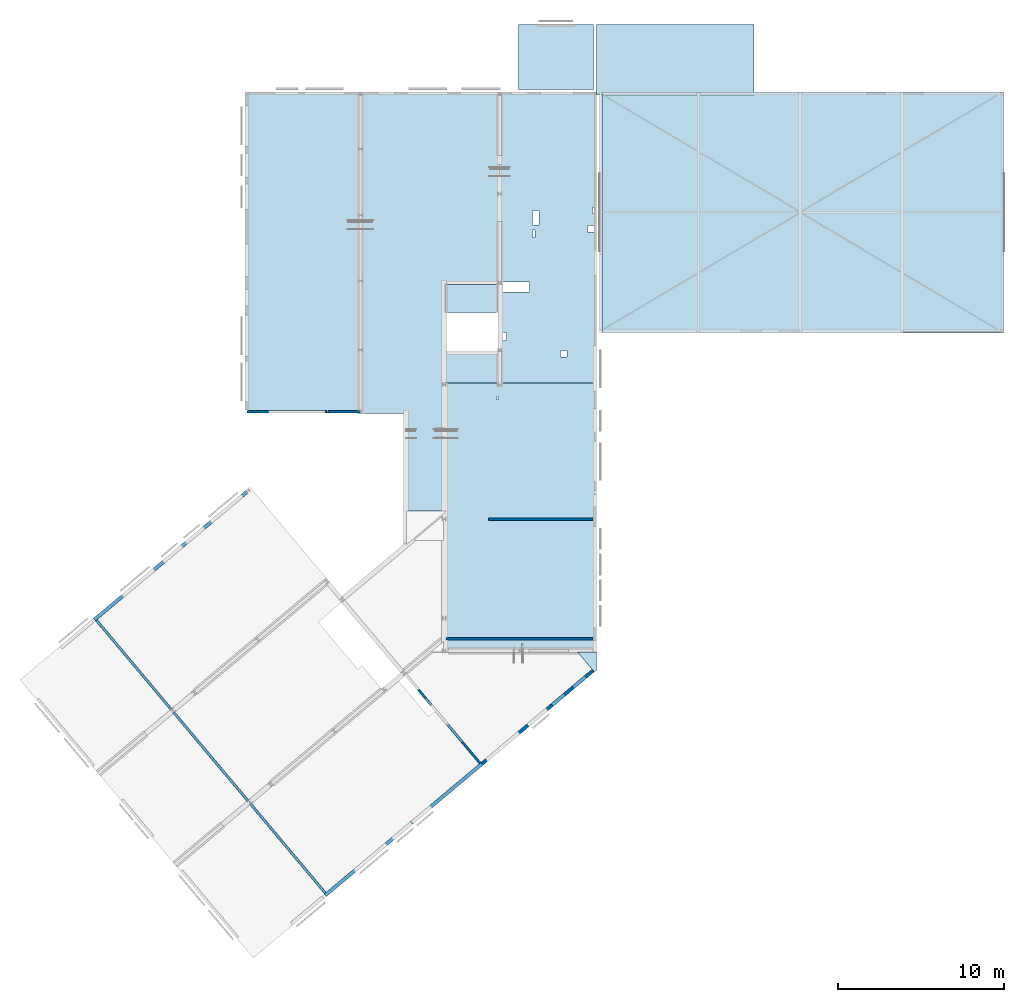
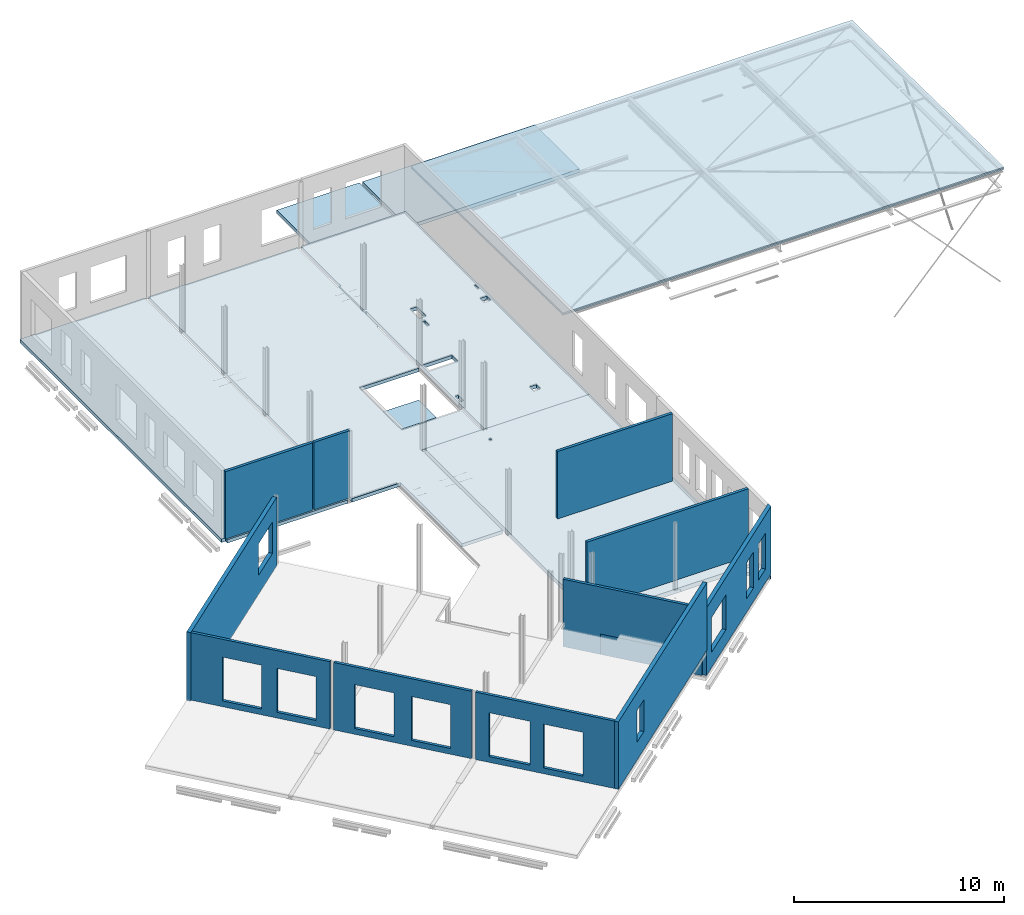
# One storey, part 12 of 16: 12 walls, 10 slabs, 19 openings.
"""IFC2X3 building model written with IfcOpenShell, lengths in millimetres."""

import ifcopenshell
import ifcopenshell.guid

model = None  # the IFC model being written
_history = None  # IfcOwnerHistory: only IFC2X3 demands one
_inside = {}  # id of a spatial element -> (the spatial element, [elements in it])
_under = {}  # id of a project, library or spatial element -> (it, [spatial elements below it])
_declared = {}  # id of a project -> (the project, [libraries it declares])
_typed = {}  # id of a type object -> (the type object, [elements of that type])
_made_of = {}  # id of a material, layer set ... -> (it, [elements and type objects made of it])


def new_model(schema):
    """Start an empty IFC model of exactly this schema.

    Asked for "IFC4X3", IfcOpenShell would pick the latest addendum, in which some entities
    have other attributes; the version numbers below select the first issue.
    IFC2X3 requires an IfcOwnerHistory on every rooted entity: one is made here for all.
    """
    global model, _history
    if schema == "IFC4X3":
        model = ifcopenshell.file(schema_version=(4, 3, 0, 0))
    else:
        model = ifcopenshell.file(schema=schema)
    _inside.clear()
    _under.clear()
    _declared.clear()
    _typed.clear()
    _made_of.clear()
    _history = None
    if model.schema == "IFC2X3":
        org = make("IfcOrganization", Name="unknown")
        user = make(
            "IfcPersonAndOrganization",
            ThePerson=make("IfcPerson", FamilyName="unknown"),
            TheOrganization=org,
        )
        app = make(
            "IfcApplication",
            ApplicationDeveloper=org,
            Version="unknown",
            ApplicationFullName="unknown",
            ApplicationIdentifier="unknown",
        )
        _history = make(
            "IfcOwnerHistory",
            OwningUser=user,
            OwningApplication=app,
            ChangeAction="ADDED",
            CreationDate=0,
        )
    return model


def make(cls, **values):
    """One entity of the class cls with the attributes given. An attribute that is None is left unset."""
    return model.create_entity(
        cls, **{name: value for name, value in values.items() if value is not None}
    )


def entity(cls, *values):
    """Any entity or typed value of the class cls, its attributes in the order of the schema. None: left unset."""
    e = model.create_entity(cls)
    for i, value in enumerate(values):
        if value is not None:
            e[i] = value
    return e


def rooted(cls, **values):
    """An entity with a GlobalId (a new one), such as an element, a storey or a relation."""
    return make(cls, GlobalId=ifcopenshell.guid.new(), OwnerHistory=_history, **values)


def si_unit(unit_type, name, prefix=None):
    """IfcSIUnit, for example si_unit("LENGTHUNIT", "METRE", prefix="MILLI")."""
    return make("IfcSIUnit", UnitType=unit_type, Prefix=prefix, Name=name)


def converted_unit(unit_type, name, factor, base, dimensions=None, offset=None):
    """IfcConversionBasedUnit, such as the inch: factor (a typed value) times the base unit."""
    return make(
        "IfcConversionBasedUnit"
        if offset is None
        else "IfcConversionBasedUnitWithOffset",
        ConversionOffset=offset,
        Dimensions=None
        if dimensions is None
        else entity("IfcDimensionalExponents", *dimensions),
        UnitType=unit_type,
        Name=name,
        ConversionFactor=make(
            "IfcMeasureWithUnit", ValueComponent=factor, UnitComponent=base
        ),
    )


def derived_unit(unit_type, elements):
    """IfcDerivedUnit: a product of units, each with its exponent."""
    return make(
        "IfcDerivedUnit",
        Elements=[
            make("IfcDerivedUnitElement", Unit=unit, Exponent=power)
            for unit, power in elements
        ],
        UnitType=unit_type,
    )


def assignment(units):
    """IfcUnitAssignment: the units of a project."""
    return None if units is None else make("IfcUnitAssignment", Units=units)


def point(xyz):
    """IfcCartesianPoint."""
    return None if xyz is None else make("IfcCartesianPoint", Coordinates=xyz)


def direction(xyz):
    """IfcDirection."""
    return None if xyz is None else make("IfcDirection", DirectionRatios=xyz)


def frame(location, z_axis=None, x_axis=None):
    """IfcAxis2Placement3D, a coordinate frame: its origin and axes. An axis left out is left unset."""
    return make(
        "IfcAxis2Placement3D",
        Location=point(location),
        Axis=direction(z_axis),
        RefDirection=direction(x_axis),
    )


def frame_2d(location, x_axis=None):
    """IfcAxis2Placement2D, a coordinate frame in the plane: its origin and x axis."""
    return make(
        "IfcAxis2Placement2D", Location=point(location), RefDirection=direction(x_axis)
    )


def origin():
    """The frame at (0, 0, 0) with its axes left unset."""
    return frame((0.0, 0.0, 0.0))


def origin_2d_with_axis():
    """The frame at (0, 0) in the plane with the x axis (1, 0) written out."""
    return frame_2d((0.0, 0.0), x_axis=(1.0, 0.0))


def place(relative_to, where):
    """IfcLocalPlacement: puts the frame where relative to a parent placement (None: the world)."""
    return make(
        "IfcLocalPlacement", PlacementRelTo=relative_to, RelativePlacement=where
    )


def context(
    kind, dimensions, precision=None, world=None, true_north=None, identifier=None
):
    """IfcGeometricRepresentationContext, for example the 3D "Model" context."""
    return make(
        "IfcGeometricRepresentationContext",
        ContextIdentifier=identifier,
        ContextType=kind,
        CoordinateSpaceDimension=dimensions,
        Precision=precision,
        WorldCoordinateSystem=world,
        TrueNorth=true_north,
    )


def subcontext(parent, identifier, kind, view, scale=None):
    """IfcGeometricRepresentationSubContext, for example "Body" below "Model"."""
    return make(
        "IfcGeometricRepresentationSubContext",
        ContextIdentifier=identifier,
        ContextType=kind,
        ParentContext=parent,
        TargetScale=scale,
        TargetView=view,
    )


def project(units=None, contexts=None):
    """IfcProject with its units and contexts."""
    return rooted(
        "IfcProject",
        Name="project",
        RepresentationContexts=contexts,
        UnitsInContext=assignment(units),
    )


def spatial(cls, under=None, at=None, **own):
    """A site, building, storey or space (cls), placed at a placement, below another one or the project."""
    s = rooted(cls, ObjectPlacement=at, **own)
    if under is not None:
        _under.setdefault(under.id(), (under, []))[1].append(s)
    return s


def polyline(points):
    """IfcPolyline through the points."""
    return make("IfcPolyline", Points=[point(p) for p in points])


def profile(cls, at=None, kind="AREA", **sizes):
    """A parametric profile (cls). Its sizes go by their IFC names, for example OverallWidth=200.0."""
    return make(cls, ProfileType=kind, Position=at, **sizes)


def rectangle(**sizes):
    """IfcRectangleProfileDef."""
    return profile("IfcRectangleProfileDef", **sizes)


def outline(outer, holes=None, kind="AREA"):
    """IfcArbitraryClosedProfileDef: a profile drawn as a closed curve; with holes, ...WithVoids."""
    if holes is None:
        return make("IfcArbitraryClosedProfileDef", ProfileType=kind, OuterCurve=outer)
    return make(
        "IfcArbitraryProfileDefWithVoids",
        ProfileType=kind,
        OuterCurve=outer,
        InnerCurves=holes,
    )


def extrude(swept, where, along, depth):
    """IfcExtrudedAreaSolid: the profile swept, set in the frame where, extruded along a direction by depth."""
    return make(
        "IfcExtrudedAreaSolid",
        SweptArea=swept,
        Position=where,
        ExtrudedDirection=direction(along),
        Depth=depth,
    )


def clip(a, b, op="DIFFERENCE"):
    """IfcBooleanClippingResult: the solid a cut by the half space b."""
    return make(
        "IfcBooleanClippingResult", Operator=op, FirstOperand=a, SecondOperand=b
    )


def halfspace(plane, agree):
    """IfcHalfSpaceSolid: all space on one side of the plane z = 0 of the frame plane."""
    return make(
        "IfcHalfSpaceSolid",
        BaseSurface=make("IfcPlane", Position=plane),
        AgreementFlag=agree,
    )


def shape(context_of_items, identifier, shape_type, items):
    """IfcShapeRepresentation: the items that make up one representation, for example the "Body"."""
    return make(
        "IfcShapeRepresentation",
        ContextOfItems=context_of_items,
        RepresentationIdentifier=identifier,
        RepresentationType=shape_type,
        Items=items,
    )


def material(Name=None, Category=None):
    """IfcMaterial."""
    return make("IfcMaterial", Name=Name, Category=Category)


def layer(
    of_material, thickness, ventilated=None, Name=None, Category=None, Priority=None
):
    """IfcMaterialLayer: one layer of a wall or slab, of a material (None: an air gap)."""
    return make(
        "IfcMaterialLayer",
        Material=of_material,
        LayerThickness=thickness,
        IsVentilated=ventilated,
        Name=Name,
        Category=Category,
        Priority=Priority,
    )


def layer_set(layers, Name=None):
    """IfcMaterialLayerSet."""
    return make("IfcMaterialLayerSet", MaterialLayers=layers, LayerSetName=Name)


def layer_usage(for_layer_set, set_direction, sense, offset, extent=None):
    """IfcMaterialLayerSetUsage: how a layer set lies in its element."""
    return make(
        "IfcMaterialLayerSetUsage",
        ForLayerSet=for_layer_set,
        LayerSetDirection=set_direction,
        DirectionSense=sense,
        OffsetFromReferenceLine=offset,
        ReferenceExtent=extent,
    )


def made_of(thing, what):
    """Note that an element or type object is made of a material, layer set ...; save() writes the relation."""
    if what is not None:
        _made_of.setdefault(what.id(), (what, []))[1].append(thing)
    return thing


def type_object(cls, material=None, **own):
    """A type object (cls), such as IfcWallType, which elements share."""
    return made_of(rooted(cls, **own), material)


def element(
    cls,
    number,
    at=None,
    inside=None,
    cuts=None,
    type_object=None,
    material=None,
    context=None,
    identifier="Body",
    shape_type=None,
    held_by="IfcProductDefinitionShape",
    body=None,
    shapes=None,
    **own,
):
    """One element of the class cls, such as IfcWall. Its Tag is "e" and its number.

    at: its placement. inside: the storey or other place that contains it. cuts: it is an
    opening in that element (IfcRelVoidsElement). A single representation is given by context,
    identifier, shape_type and body (its items); several are given by shapes. held_by: the class
    of the entity that holds the representations. save() writes the other relations.
    """
    e = rooted(cls, Tag="e%d" % number, ObjectPlacement=at, **own)
    if body is not None:
        shapes = [shape(context, identifier, shape_type, body)]
    if shapes is not None:
        e.Representation = make(held_by, Representations=shapes)
    if inside is not None:
        _inside.setdefault(inside.id(), (inside, []))[1].append(e)
    if cuts is not None:
        rooted(
            "IfcRelVoidsElement", RelatingBuildingElement=cuts, RelatedOpeningElement=e
        )
    if type_object is not None:
        _typed.setdefault(type_object.id(), (type_object, []))[1].append(e)
    return made_of(e, material)


def aggregate(whole, parts):
    """IfcRelAggregates: a whole, such as a stair, and the parts it consists of."""
    return rooted("IfcRelAggregates", RelatingObject=whole, RelatedObjects=parts)


def save(model, path):
    """Write the relations noted so far, then the file.

    IfcRelAggregates (storeys below a building ...), IfcRelContainedInSpatialStructure (elements
    in a storey), IfcRelDefinesByType, IfcRelAssociatesMaterial and IfcRelDeclares: one each for
    every whole, place, type object, material and project.
    """
    for whole, parts in _under.values():
        aggregate(whole, parts)
    for where, things in _inside.values():
        rooted(
            "IfcRelContainedInSpatialStructure",
            RelatedElements=things,
            RelatingStructure=where,
        )
    for kind, things in _typed.values():
        rooted("IfcRelDefinesByType", RelatedObjects=things, RelatingType=kind)
    for what, things in _made_of.values():
        rooted("IfcRelAssociatesMaterial", RelatedObjects=things, RelatingMaterial=what)
    for by, libraries in _declared.values():
        rooted("IfcRelDeclares", RelatingContext=by, RelatedDefinitions=libraries)
    model.write(path)


model = new_model("IFC2X3")

# Units and contexts
model_context = context("Model", 3, precision=0.01, world=origin(), true_north=direction((6.12303176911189e-17, 1.0)))
body_context = subcontext(model_context, "Body", "Model", "MODEL_VIEW")
ifc_project = project(units=[si_unit("LENGTHUNIT", "METRE", prefix="MILLI"), si_unit("AREAUNIT", "SQUARE_METRE"), si_unit("VOLUMEUNIT", "CUBIC_METRE"), converted_unit("PLANEANGLEUNIT", "DEGREE", entity("IfcRatioMeasure", 0.0174532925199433), si_unit("PLANEANGLEUNIT", "RADIAN"), dimensions=[0, 0, 0, 0, 0, 0, 0]), si_unit("MASSUNIT", "GRAM", prefix="KILO"), derived_unit("MASSDENSITYUNIT", [(si_unit("MASSUNIT", "GRAM", prefix="KILO"), 1), (si_unit("LENGTHUNIT", "METRE"), -3)]), derived_unit("MOMENTOFINERTIAUNIT", [(si_unit("LENGTHUNIT", "METRE"), 4)]), si_unit("TIMEUNIT", "SECOND"), si_unit("FREQUENCYUNIT", "HERTZ"), si_unit("THERMODYNAMICTEMPERATUREUNIT", "DEGREE_CELSIUS"), derived_unit("THERMALTRANSMITTANCEUNIT", [(si_unit("MASSUNIT", "GRAM", prefix="KILO"), 1), (si_unit("THERMODYNAMICTEMPERATUREUNIT", "KELVIN"), -1), (si_unit("TIMEUNIT", "SECOND"), -3)]), derived_unit("VOLUMETRICFLOWRATEUNIT", [(si_unit("LENGTHUNIT", "METRE"), 3), (si_unit("TIMEUNIT", "SECOND"), -1)]), si_unit("ELECTRICCURRENTUNIT", "AMPERE"), si_unit("ELECTRICVOLTAGEUNIT", "VOLT"), si_unit("POWERUNIT", "WATT"), si_unit("FORCEUNIT", "NEWTON", prefix="KILO"), si_unit("ILLUMINANCEUNIT", "LUX"), si_unit("LUMINOUSFLUXUNIT", "LUMEN"), si_unit("LUMINOUSINTENSITYUNIT", "CANDELA"), derived_unit("USERDEFINED", [(si_unit("MASSUNIT", "GRAM", prefix="KILO"), -1), (si_unit("LENGTHUNIT", "METRE"), -2), (si_unit("TIMEUNIT", "SECOND"), 3), (si_unit("LUMINOUSFLUXUNIT", "LUMEN"), 1)]), derived_unit("LINEARVELOCITYUNIT", [(si_unit("LENGTHUNIT", "METRE"), 1), (si_unit("TIMEUNIT", "SECOND"), -1)]), si_unit("PRESSUREUNIT", "PASCAL"), derived_unit("USERDEFINED", [(si_unit("LENGTHUNIT", "METRE"), -2), (si_unit("MASSUNIT", "GRAM", prefix="KILO"), 1), (si_unit("TIMEUNIT", "SECOND"), -2)]), derived_unit("LINEARFORCEUNIT", [(si_unit("MASSUNIT", "GRAM", prefix="KILO"), 1), (si_unit("LENGTHUNIT", "METRE"), 1), (si_unit("TIMEUNIT", "SECOND"), -2), (si_unit("LENGTHUNIT", "METRE"), -1)]), derived_unit("PLANARFORCEUNIT", [(si_unit("MASSUNIT", "GRAM", prefix="KILO"), 1), (si_unit("LENGTHUNIT", "METRE"), 1), (si_unit("TIMEUNIT", "SECOND"), -2), (si_unit("LENGTHUNIT", "METRE"), -2)])], contexts=[model_context])

# Site, building, storey
site_placement = place(None, origin())
site = spatial("IfcSite", under=ifc_project, at=site_placement, Name="Default", CompositionType="ELEMENT")
building_placement = place(site_placement, origin())
building = spatial("IfcBuilding", under=site, at=building_placement, CompositionType="ELEMENT")
storey_placement = place(building_placement, frame((0.0, 0.0, 3500.0)))
storey = spatial("IfcBuildingStorey", under=building, at=storey_placement, Name="01 eerste verdieping", CompositionType="ELEMENT", Elevation=3500.00000000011)

# Slabs
ifc_material_1 = material(Name="f2_beton prefab")
ifc_layer_1 = layer(ifc_material_1, 200.0)
ifc_layer_set_1 = layer_set([ifc_layer_1], Name="Floor:BERSnl_23_FL_kanaalplaatvloer 200_gen_ISR")
ifc_layer_usage_1 = layer_usage(ifc_layer_set_1, "AXIS3", "POSITIVE", 0.0)
slab_type_1 = type_object("IfcSlabType", Name="Floor:BERSnl_23_FL_kanaalplaatvloer 200_gen_ISR", PredefinedType="FLOOR", material=ifc_layer_set_1)
slab_1_placement = place(storey_placement, origin())
element("IfcSlab", 1, at=slab_1_placement, inside=storey, type_object=slab_type_1, material=ifc_layer_usage_1, Name="Floor:BERSnl_23_FL_kanaalplaatvloer 200_gen_ISR", ObjectType="Floor:BERSnl_23_FL_kanaalplaatvloer 200_gen_ISR", PredefinedType="FLOOR", context=body_context, shape_type="SweptSolid", body=[
    extrude(outline(polyline([(-6342.76816433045, -2364.66666666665), (12865.8840821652, -2364.66666666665), (12865.8840821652, 4509.33333333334), (-6523.11591783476, 4509.33333333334), (-6523.11591783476, -2144.66666666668), (-6342.76816433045, -2144.66666666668), (-6342.76816433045, -2364.66666666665)])), frame((15960.1016431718, 22630.4125460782, 350.0), z_axis=(0.0, 0.0, -1.0), x_axis=(0.0, 1.0, 0.0)), (0.0, 0.0, 1.0), 200.0),
])
ifc_layer_usage_2 = layer_usage(ifc_layer_set_1, "AXIS3", "POSITIVE", 0.0)
slab_type_2 = type_object("IfcSlabType", Name="Floor:BERSnl_23_FL_kanaalplaatvloer 200_gen_ISR", PredefinedType="FLOOR", material=ifc_layer_set_1)
slab_2_placement = place(storey_placement, origin())
element("IfcSlab", 2, at=slab_2_placement, inside=storey, type_object=slab_type_2, material=ifc_layer_usage_2, Name="Floor:BERSnl_23_FL_kanaalplaatvloer 200_gen_ISR", ObjectType="Floor:BERSnl_23_FL_kanaalplaatvloer 200_gen_ISR", PredefinedType="FLOOR", context=body_context, shape_type="SweptSolid", body=[
    extrude(outline(polyline([(-6802.70122599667, -5671.68207952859), (12616.2987740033, -5671.68207952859), (12616.2987740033, 2528.31792047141), (8802.29877400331, 2528.31792047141), (8802.29877400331, 2593.31792047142), (5022.29877400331, 2593.31792047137), (5022.29877400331, 2528.3179204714), (1012.2987740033, 2528.31792047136), (1012.2987740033, -760.682079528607), (-3040.70122599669, -760.682079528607), (-3040.70122599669, 2528.31792047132), (-4936.4280544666, 2528.3179204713), (-4936.4280544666, -756.682079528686), (-12673.3645895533, -756.682079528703), (-12673.3645895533, -2989.22544329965), (-6802.70122599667, -2989.22544329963), (-6802.70122599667, -5671.68207952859)])), frame((26341.1170560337, 22879.9978542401, 350.0), z_axis=(0.0, 0.0, -1.0), x_axis=(0.0, 1.0, 0.0)), (0.0, 0.0, 1.0), 200.0),
])
ifc_material_2 = material(Name="f2_beton ihwg")
ifc_layer_2 = layer(ifc_material_2, 200.0)
ifc_layer_set_2 = layer_set([ifc_layer_2], Name="Floor:BERSnl_23_FLprefab 200")
ifc_layer_usage_3 = layer_usage(ifc_layer_set_2, "AXIS3", "POSITIVE", 0.0)
slab_type_3 = type_object("IfcSlabType", Name="Floor:BERSnl_23_FLprefab 200", PredefinedType="FLOOR", material=ifc_layer_set_2)
slab_3_placement = place(storey_placement, origin())
element("IfcSlab", 3, at=slab_3_placement, inside=storey, type_object=slab_type_3, material=ifc_layer_usage_3, Name="Floor:BERSnl_23_FLprefab 200", ObjectType="Floor:BERSnl_23_FLprefab 200", PredefinedType="FLOOR", context=body_context, shape_type="SweptSolid", body=[
    extrude(rectangle(XDim=1694.99999999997, YDim=3149.99999999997, at=frame_2d((-2.1600499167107e-12, 2.1600499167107e-12), x_axis=(1.0, 0.0))), frame((27279.4349765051, 23044.7966282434, -1500.0), z_axis=(0.0, 0.0, -1.0), x_axis=(0.0, 1.0, 0.0)), (0.0, 0.0, 1.0), 200.0),
])

# Slab, opening
ifc_layer_3 = layer(ifc_material_1, 260.0)
ifc_layer_set_3 = layer_set([ifc_layer_3], Name="Floor:BERSnl_23_FL_kanaalplaatvloer 260_gen_ISR")
ifc_layer_usage_4 = layer_usage(ifc_layer_set_3, "AXIS3", "POSITIVE", 0.0)
slab_type_4 = type_object("IfcSlabType", Name="Floor:BERSnl_23_FL_kanaalplaatvloer 260_gen_ISR", PredefinedType="FLOOR", material=ifc_layer_set_3)
slab_4_placement = place(storey_placement, frame((25765.4349765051, 1852.29662827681, 90.0)))
slab_4 = element("IfcSlab", 4, at=slab_4_placement, inside=storey, type_object=slab_type_4, material=ifc_layer_usage_4, Name="Floor:BERSnl_23_FL_kanaalplaatvloer 260_gen_ISR", ObjectType="Floor:BERSnl_23_FL_kanaalplaatvloer 260_gen_ISR", PredefinedType="FLOOR", context=body_context, shape_type="SweptSolid", body=[
    extrude(rectangle(XDim=9067.99208063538, YDim=16091.2731714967, at=origin_2d_with_axis()), frame((4533.99604031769, 8045.63658574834, 260.0), z_axis=(0.0, 0.0, -1.0), x_axis=(-1.0, 0.0, 0.0)), (0.0, 0.0, 1.0), 260.0),
])
opening_1_placement = place(storey_placement, frame((25765.4349765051, 1852.29662827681, 90.0)))
element("IfcOpeningElement", 5, at=opening_1_placement, cuts=slab_4, ObjectType="Opening", context=body_context, shape_type="SweptSolid", body=[
    extrude(rectangle(XDim=150.000000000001, YDim=150.0, at=frame_2d((1458.99604031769, 7125.36341421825), x_axis=(0.0, -1.0))), frame((4533.99604031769, 8045.63658574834, 260.0), z_axis=(0.0, 0.0, -1.0), x_axis=(-1.0, 0.0, 0.0)), (0.0, 0.0, 1.0), 260.0),
])

# Slab
ifc_layer_usage_5 = layer_usage(ifc_layer_set_1, "AXIS3", "POSITIVE", 0.0)
slab_type_5 = type_object("IfcSlabType", Name="Floor:BERSnl_23_FL_kanaalplaatvloer 200_gen_ISR", PredefinedType="FLOOR", material=ifc_layer_set_1)
slab_5_placement = place(storey_placement, origin())
element("IfcSlab", 6, at=slab_5_placement, inside=storey, type_object=slab_type_5, material=ifc_layer_usage_5, Name="Floor:BERSnl_23_FL_kanaalplaatvloer 200_gen_ISR", ObjectType="Floor:BERSnl_23_FL_kanaalplaatvloer 200_gen_ISR", PredefinedType="FLOOR", context=body_context, shape_type="SweptSolid", body=[
    extrude(rectangle(XDim=3930.34775350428, YDim=4547.99208063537, at=frame_2d((2.1600499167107e-12, 0.0), x_axis=(1.0, 0.0))), frame((32379.4310168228, 37631.1227514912, -400.0), z_axis=(0.0, 0.0, -1.0), x_axis=(0.0, 1.0, 0.0)), (0.0, 0.0, 1.0), 200.0),
])

# Slab, openings
ifc_layer_usage_6 = layer_usage(ifc_layer_set_1, "AXIS3", "POSITIVE", 0.0)
slab_type_6 = type_object("IfcSlabType", Name="Floor:BERSnl_23_FL_kanaalplaatvloer 200_gen_ISR", PredefinedType="FLOOR", material=ifc_layer_set_1)
slab_6_placement = place(storey_placement, frame((29004.4349765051, 17943.5697997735, 150.0)))
slab_6 = element("IfcSlab", 7, at=slab_6_placement, inside=storey, type_object=slab_type_6, material=ifc_layer_usage_6, Name="Floor:BERSnl_23_FL_kanaalplaatvloer 200_gen_ISR", ObjectType="Floor:BERSnl_23_FL_kanaalplaatvloer 200_gen_ISR", PredefinedType="FLOOR", context=body_context, shape_type="SweptSolid", body=[
    extrude(outline(polyline([(2849.49604031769, 8776.36341423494), (-2914.4960403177, 8776.36341423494), (-2914.4960403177, -8776.36341423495), (2849.49604031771, -8776.36341423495), (2849.49604031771, 2521.36341423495), (2914.4960403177, 2521.36341423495), (2914.4960403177, 4962.36341423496), (2849.49604031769, 4962.36341423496), (2849.49604031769, 8776.36341423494)])), frame((2914.4960403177, 8776.36341423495, 200.0), z_axis=(0.0, 0.0, -1.0), x_axis=(-1.0, 0.0, 0.0)), (0.0, 0.0, 1.0), 200.0),
])
opening_2_placement = place(storey_placement, frame((29004.4349765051, 17943.5697997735, 150.0)))
element("IfcOpeningElement", 8, at=opening_2_placement, cuts=slab_6, ObjectType="Opening", context=body_context, shape_type="SweptSolid", body=[
    extrude(rectangle(XDim=899.999999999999, YDim=400.0, at=frame_2d((774.496040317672, 1190.36341423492), x_axis=(0.0, -1.0))), frame((2914.4960403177, 8776.36341423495, 200.0), z_axis=(0.0, 0.0, -1.0), x_axis=(-1.0, 0.0, 0.0)), (0.0, 0.0, 1.0), 200.0),
])
opening_3_placement = place(storey_placement, frame((29004.4349765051, 17943.5697997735, 150.0)))
element("IfcOpeningElement", 9, at=opening_3_placement, cuts=slab_6, ObjectType="Opening", context=body_context, shape_type="SweptSolid", body=[
    extrude(rectangle(XDim=450.000000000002, YDim=150.000000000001, at=frame_2d((899.496040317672, 220.36341423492), x_axis=(0.0, -1.0))), frame((2914.4960403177, 8776.36341423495, 200.0), z_axis=(0.0, 0.0, -1.0), x_axis=(-1.0, 0.0, 0.0)), (0.0, 0.0, 1.0), 200.0),
])
opening_4_placement = place(storey_placement, frame((29004.4349765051, 17943.5697997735, 150.0)))
element("IfcOpeningElement", 10, at=opening_4_placement, cuts=slab_6, ObjectType="Opening", context=body_context, shape_type="SweptSolid", body=[
    extrude(rectangle(XDim=349.999999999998, YDim=99.9999999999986, at=frame_2d((-2714.49604031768, 1627.36341423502), x_axis=(0.0, -1.0))), frame((2914.4960403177, 8776.36341423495, 200.0), z_axis=(0.0, 0.0, -1.0), x_axis=(-1.0, 0.0, 0.0)), (0.0, 0.0, 1.0), 200.0),
])
opening_5_placement = place(storey_placement, frame((29004.4349765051, 17943.5697997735, 150.0)))
element("IfcOpeningElement", 11, at=opening_5_placement, cuts=slab_6, ObjectType="Opening", context=body_context, shape_type="SweptSolid", body=[
    extrude(rectangle(XDim=400.0, YDim=400.0, at=frame_2d((-2564.49604031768, 538.363414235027), x_axis=(0.0, -1.0))), frame((2914.4960403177, 8776.36341423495, 200.0), z_axis=(0.0, 0.0, -1.0), x_axis=(-1.0, 0.0, 0.0)), (0.0, 0.0, 1.0), 200.0),
])
opening_6_placement = place(storey_placement, frame((29004.4349765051, 17943.5697997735, 150.0)))
element("IfcOpeningElement", 12, at=opening_6_placement, cuts=slab_6, ObjectType="Opening", context=body_context, shape_type="SweptSolid", body=[
    extrude(rectangle(XDim=599.999999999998, YDim=1600.0, at=frame_2d((1949.4960403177, -2993.63658576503), x_axis=(0.0, -1.0))), frame((2914.4960403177, 8776.36341423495, 200.0), z_axis=(0.0, 0.0, -1.0), x_axis=(-1.0, 0.0, 0.0)), (0.0, 0.0, 1.0), 200.0),
])
opening_7_placement = place(storey_placement, frame((29004.4349765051, 17943.5697997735, 150.0)))
element("IfcOpeningElement", 13, at=opening_7_placement, cuts=slab_6, ObjectType="Opening", context=body_context, shape_type="SweptSolid", body=[
    extrude(rectangle(XDim=400.0, YDim=400.0, at=frame_2d((-920.503959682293, -7023.63658576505), x_axis=(0.0, -1.0))), frame((2914.4960403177, 8776.36341423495, 200.0), z_axis=(0.0, 0.0, -1.0), x_axis=(-1.0, 0.0, 0.0)), (0.0, 0.0, 1.0), 200.0),
])
opening_8_placement = place(storey_placement, frame((29004.4349765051, 17943.5697997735, 150.0)))
element("IfcOpeningElement", 14, at=opening_8_placement, cuts=slab_6, ObjectType="Opening", context=body_context, shape_type="SweptSolid", body=[
    extrude(rectangle(XDim=499.999999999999, YDim=200.000000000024, at=frame_2d((2649.49604031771, -5973.63658576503), x_axis=(0.0, -1.0))), frame((2914.4960403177, 8776.36341423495, 200.0), z_axis=(0.0, 0.0, -1.0), x_axis=(-1.0, 0.0, 0.0)), (0.0, 0.0, 1.0), 200.0),
])

# Slabs
ifc_layer_usage_7 = layer_usage(ifc_layer_set_1, "AXIS3", "POSITIVE", 0.0)
slab_type_7 = type_object("IfcSlabType", Name="Floor:BERSnl_23_FL_kanaalplaatvloer 200_gen_ISR", PredefinedType="FLOOR", material=ifc_layer_set_1)
slab_7_placement = place(storey_placement, origin())
element("IfcSlab", 15, at=slab_7_placement, inside=storey, type_object=slab_type_7, material=ifc_layer_usage_7, Name="Floor:BERSnl_23_FL_kanaalplaatvloer 200_gen_ISR", ObjectType="Floor:BERSnl_23_FL_kanaalplaatvloer 200_gen_ISR", PredefinedType="FLOOR", context=body_context, shape_type="SweptSolid", body=[
    extrude(rectangle(XDim=4261.5, YDim=9499.99999999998, at=frame_2d((0.0, 4.54747350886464e-12), x_axis=(1.0, 0.0))), frame((39583.4270571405, 37465.5466282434, -400.0), z_axis=(0.0, 0.0, -1.0), x_axis=(0.0, 1.0, 0.0)), (0.0, 0.0, 1.0), 200.0),
])
ifc_layer_4 = layer(ifc_material_2, 200.0)
ifc_layer_set_4 = layer_set([ifc_layer_4], Name="Floor:BERSnl_23_FL_gewapend beton 200_gen_ISR")
ifc_layer_usage_8 = layer_usage(ifc_layer_set_4, "AXIS3", "POSITIVE", 0.0)
slab_type_8 = type_object("IfcSlabType", Name="Floor:BERSnl_23_FL_gewapend beton 200_gen_ISR", PredefinedType="FLOOR", material=ifc_layer_set_4)
slab_8_placement = place(storey_placement, origin())
element("IfcSlab", 16, at=slab_8_placement, inside=storey, type_object=slab_type_8, material=ifc_layer_usage_8, Name="Floor:BERSnl_23_FL_gewapend beton 200_gen_ISR", ObjectType="Floor:BERSnl_23_FL_gewapend beton 200_gen_ISR", PredefinedType="FLOOR", context=body_context, shape_type="SweptSolid", body=[
    extrude(outline(polyline([(-567.985954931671, -325.781864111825), (505.565917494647, -325.781864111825), (630.405992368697, -177.003256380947), (-567.985954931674, 828.56698460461), (-567.985954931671, -325.781864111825)])), frame((34507.6451930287, 1109.31067334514, 350.0), z_axis=(0.0, 0.0, -1.0), x_axis=(0.0, -1.0, 0.0)), (0.0, 0.0, 1.0), 200.0),
])
ifc_material_3 = material(Name="h2_staal")
ifc_layer_5 = layer(ifc_material_3, 75.0)
ifc_layer_set_5 = layer_set([ifc_layer_5], Name="Floor:BERSnl_27_FL_staal 75_gen_ISR")
ifc_layer_usage_9 = layer_usage(ifc_layer_set_5, "AXIS3", "POSITIVE", 0.0)
slab_type_9 = type_object("IfcSlabType", Name="Floor:BERSnl_27_FL_staal 75_gen_ISR", PredefinedType="ROOF", material=ifc_layer_set_5)
slab_9_placement = place(storey_placement, origin())
element("IfcSlab", 17, at=slab_9_placement, inside=storey, type_object=slab_type_9, material=ifc_layer_usage_9, Name="Floor:BERSnl_27_FL_staal 75_gen_ISR", ObjectType="Floor:BERSnl_27_FL_staal 75_gen_ISR", PredefinedType="ROOF", context=body_context, shape_type="SweptSolid", body=[
    clip(clip(extrude(rectangle(XDim=14501.8240232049, YDim=24294.1438623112, at=frame_2d((0.0, -1.81898940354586e-12), x_axis=(1.0, 0.0))), frame((47286.3551259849, 28246.2966282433, 2930.0), z_axis=(0.0, -0.015860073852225, -0.999874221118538), x_axis=(0.0, 0.999874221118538, -0.015860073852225)), (0.015860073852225, 0.0, 0.999874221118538), 75.0094346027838), halfspace(frame((47286.3551259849, 28246.2966282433, 2855.0), z_axis=(0.0, -0.015860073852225, -0.999874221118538), x_axis=(0.0, -0.999874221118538, 0.015860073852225)), False)), halfspace(frame((47286.3551259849, 28246.2966282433, 2930.0), z_axis=(0.0, 0.015860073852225, 0.999874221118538), x_axis=(0.0, -0.999874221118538, 0.015860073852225)), False)),
])
ifc_layer_usage_10 = layer_usage(ifc_layer_set_5, "AXIS3", "POSITIVE", 0.0)
slab_type_10 = type_object("IfcSlabType", Name="Floor:BERSnl_27_FL_staal 75_gen_ISR", PredefinedType="ROOF", material=ifc_layer_set_5)
slab_10_placement = place(storey_placement, origin())
element("IfcSlab", 18, at=slab_10_placement, inside=storey, type_object=slab_type_10, material=ifc_layer_usage_10, Name="Floor:BERSnl_27_FL_staal 75_gen_ISR", ObjectType="Floor:BERSnl_27_FL_staal 75_gen_ISR", PredefinedType="ROOF", context=body_context, shape_type="SweptSolid", body=[
    clip(clip(extrude(rectangle(XDim=14501.8240232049, YDim=24295.1438623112, at=origin_2d_with_axis()), frame((47285.8551259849, 28246.2966282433, 3005.0), z_axis=(0.0, -0.015860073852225, -0.999874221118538), x_axis=(0.0, 0.999874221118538, -0.015860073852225)), (0.015860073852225, 0.0, 0.999874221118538), 75.0094346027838), halfspace(frame((47285.8551259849, 28246.2966282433, 2930.0), z_axis=(0.0, -0.015860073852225, -0.999874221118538), x_axis=(0.0, -0.999874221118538, 0.015860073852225)), False)), halfspace(frame((47285.8551259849, 28246.2966282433, 3005.0), z_axis=(0.0, 0.015860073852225, 0.999874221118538), x_axis=(0.0, -0.999874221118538, 0.015860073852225)), False)),
])

# Wall, openings
ifc_material_4 = material(Name="f1_kalkzandsteen")
ifc_layer_6 = layer(ifc_material_4, 214.0)
ifc_layer_set_6 = layer_set([ifc_layer_6], Name="Basic Wall:BERSnl_22_WA_kalkzandsteen214")
ifc_layer_usage_11 = layer_usage(ifc_layer_set_6, "AXIS2", "NEGATIVE", 107.0)
wall_type_1 = type_object("IfcWallType", Name="Basic Wall:BERSnl_22_WA_kalkzandsteen214", PredefinedType="STANDARD", material=ifc_layer_set_6)
wall_1_placement = place(storey_placement, frame((27795.9173466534, -5161.74846666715, 410.0), z_axis=(0.0, 0.0, 1.0), x_axis=(0.766044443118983, 0.642787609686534, 0.0)))
wall_1 = element("IfcWallStandardCase", 19, at=wall_1_placement, inside=storey, type_object=wall_type_1, material=ifc_layer_usage_11, Name="Basic Wall:BERSnl_22_WA_kalkzandsteen214", ObjectType="Basic Wall:BERSnl_22_WA_kalkzandsteen214", context=body_context, shape_type="SweptSolid", body=[
    extrude(outline(polyline([(9097.03281428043, -107.0), (9276.60013535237, 107.0), (8997.24297543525, 107.0), (150.0, 107.0), (75.0, 107.0), (75.0, -107.0), (9097.03281428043, -107.0)])), origin(), (0.0, 0.0, 1.0), 3930.0),
])
opening_9_placement = place(wall_1_placement, origin())
element("IfcOpeningElement", 20, at=opening_9_placement, cuts=wall_1, Name="Basic Wall:BERSnl_22_WA_kalkzandsteen214", ObjectType="Opening", context=body_context, shape_type="SweptSolid", body=[
    extrude(rectangle(XDim=2099.99999999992, YDim=985.999999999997, at=frame_2d((0.0, 2.33058017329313e-12), x_axis=(1.0, 0.0))), frame((7819.46940812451, -107.0, 1840.0), z_axis=(0.0, 1.0, 0.0), x_axis=(0.0, 0.0, -1.0)), (0.0, 0.0, 1.0), 214.000000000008),
])
opening_10_placement = place(wall_1_placement, origin())
element("IfcOpeningElement", 21, at=opening_10_placement, cuts=wall_1, Name="Basic Wall:BERSnl_22_WA_kalkzandsteen214", ObjectType="Opening", context=body_context, shape_type="SweptSolid", body=[
    extrude(rectangle(XDim=2029.99999999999, YDim=2049.99999999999, at=frame_2d((5.6843418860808e-13, 2.38742359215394e-12), x_axis=(1.0, 0.0))), frame((1774.99993389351, -107.0, 1905.0), z_axis=(0.0, 1.0, 0.0), x_axis=(0.0, 0.0, -1.0)), (0.0, 0.0, 1.0), 214.000000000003),
])
opening_11_placement = place(wall_1_placement, origin())
element("IfcOpeningElement", 22, at=opening_11_placement, cuts=wall_1, Name="Basic Wall:BERSnl_22_WA_kalkzandsteen214", ObjectType="Opening", context=body_context, shape_type="SweptSolid", body=[
    extrude(rectangle(XDim=2100.0, YDim=999.999999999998, at=frame_2d((3.41060513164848e-13, 2.33058017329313e-12), x_axis=(1.0, 0.0))), frame((6163.9999338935, -107.0, 1840.0), z_axis=(0.0, 1.0, 0.0), x_axis=(0.0, 0.0, -1.0)), (0.0, 0.0, 1.0), 214.000000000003),
])

# Wall, opening
ifc_layer_usage_12 = layer_usage(ifc_layer_set_6, "AXIS2", "NEGATIVE", 107.0)
wall_2_placement = place(storey_placement, frame((18450.1750899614, -13003.7573473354, 1860.0), z_axis=(0.0, 0.0, 1.0), x_axis=(0.76604444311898, 0.642787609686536, 0.0)))
wall_2 = element("IfcWallStandardCase", 23, at=wall_2_placement, inside=storey, type_object=wall_type_1, material=ifc_layer_usage_12, Name="Basic Wall:BERSnl_22_WA_kalkzandsteen214", ObjectType="Basic Wall:BERSnl_22_WA_kalkzandsteen214", context=body_context, shape_type="SweptSolid", body=[
    extrude(rectangle(XDim=12350.0000661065, YDim=213.999999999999, at=frame_2d((6175.00003305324, -1.13686837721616e-13), x_axis=(-1.0, 0.0))), origin(), (0.0, 0.0, 1.0), 3930.00000000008),
])
opening_12_placement = place(wall_2_placement, origin())
element("IfcOpeningElement", 24, at=opening_12_placement, cuts=wall_2, Name="Basic Wall:BERSnl_22_WA_kalkzandsteen214", ObjectType="Opening", context=body_context, shape_type="SweptSolid", body=[
    extrude(rectangle(XDim=1844.99999999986, YDim=987.999999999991, at=frame_2d((-5.11590769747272e-13, 6.82121026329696e-13), x_axis=(1.0, 0.0))), frame((3041.0, -107.0, 1967.50000000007), z_axis=(0.0, 1.0, 0.0), x_axis=(0.0, 0.0, -1.0)), (0.0, 0.0, 1.0), 213.999999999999),
])

ifc_layer_usage_13 = layer_usage(ifc_layer_set_6, "AXIS2", "NEGATIVE", 107.0)
wall_3_placement = place(storey_placement, frame((4492.69263145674, 3630.12251615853, 1800.0), z_axis=(0.0, 0.0, 1.0), x_axis=(0.766044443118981, 0.642787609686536, 0.0)))
wall_3 = element("IfcWallStandardCase", 25, at=wall_3_placement, inside=storey, type_object=wall_type_1, material=ifc_layer_usage_13, Name="Basic Wall:BERSnl_22_WA_kalkzandsteen214", ObjectType="Basic Wall:BERSnl_22_WA_kalkzandsteen214", context=body_context, shape_type="SweptSolid", body=[
    extrude(rectangle(XDim=11989.7037669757, YDim=213.999999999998, at=frame_2d((5994.85188348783, -7.31859017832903e-13), x_axis=(-1.0, 0.0))), origin(), (0.0, 0.0, 1.0), 3990.00000000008),
])
opening_13_placement = place(wall_3_placement, origin())
element("IfcOpeningElement", 26, at=opening_13_placement, cuts=wall_3, Name="Basic Wall:BERSnl_22_WA_kalkzandsteen214", ObjectType="Opening", context=body_context, shape_type="SweptSolid", body=[
    extrude(rectangle(XDim=1839.99999999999, YDim=1968.62320900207, at=frame_2d((0.0, -2.27373675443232e-13), x_axis=(1.0, 0.0))), frame((10420.688395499, -107.0, 2025.0), z_axis=(0.0, 1.0, 0.0), x_axis=(0.0, 0.0, -1.0)), (0.0, 0.0, 1.0), 214.000000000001),
])

# Walls
ifc_layer_7 = layer(ifc_material_4, 150.0)
ifc_layer_set_7 = layer_set([ifc_layer_7], Name="Basic Wall:BERSnl_22_WA_kalkzandsteen150")
ifc_layer_usage_14 = layer_usage(ifc_layer_set_7, "AXIS2", "NEGATIVE", 75.0)
wall_type_2 = type_object("IfcWallType", Name="Basic Wall:BERSnl_22_WA_kalkzandsteen150", PredefinedType="STANDARD", material=ifc_layer_set_7)
wall_4_placement = place(storey_placement, frame((18518.6958869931, 16182.2966282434, 410.0), z_axis=(0.0, 0.0, 1.0), x_axis=(-1.0, 0.0, 0.0)))
element("IfcWallStandardCase", 27, at=wall_4_placement, inside=storey, type_object=wall_type_2, material=ifc_layer_usage_14, Name="Basic Wall:BERSnl_22_WA_kalkzandsteen150", ObjectType="Basic Wall:BERSnl_22_WA_kalkzandsteen150", context=body_context, shape_type="SweptSolid", body=[
    extrude(rectangle(XDim=4795.0, YDim=150.000000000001, at=frame_2d((2397.5, 0.0), x_axis=(-1.0, 0.0))), origin(), (0.0, 0.0, 1.0), 3930.0),
])
ifc_layer_usage_15 = layer_usage(ifc_layer_set_7, "AXIS2", "POSITIVE", -75.0)
wall_5_placement = place(storey_placement, frame((18595.811773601, 16182.2966282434, 410.0)))
element("IfcWallStandardCase", 28, at=wall_5_placement, inside=storey, type_object=wall_type_2, material=ifc_layer_usage_15, Name="Basic Wall:BERSnl_22_WA_kalkzandsteen150", ObjectType="Basic Wall:BERSnl_22_WA_kalkzandsteen150", context=body_context, shape_type="SweptSolid", body=[
    extrude(rectangle(XDim=1960.0, YDim=150.000000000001, at=frame_2d((980.0, 0.0), x_axis=(-1.0, 0.0))), origin(), (0.0, 0.0, 1.0), 3930.0),
])
ifc_layer_usage_16 = layer_usage(ifc_layer_set_7, "AXIS2", "NEGATIVE", 75.0)
wall_6_placement = place(storey_placement, frame((26724.7394275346, -3768.48904623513, 410.0), z_axis=(0.0, 0.0, 1.0), x_axis=(-0.642787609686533, 0.766044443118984, 0.0)))
element("IfcWallStandardCase", 29, at=wall_6_placement, inside=storey, type_object=wall_type_2, material=ifc_layer_usage_16, Name="Basic Wall:BERSnl_22_WA_kalkzandsteen150", ObjectType="Basic Wall:BERSnl_22_WA_kalkzandsteen150", context=body_context, shape_type="SweptSolid", body=[
    extrude(rectangle(XDim=3500.0, YDim=150.000000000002, at=frame_2d((1750.0, -9.9475983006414e-14), x_axis=(-1.0, 0.0))), origin(), (0.0, 0.0, 1.0), 1190.00000000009),
])
ifc_layer_usage_17 = layer_usage(ifc_layer_set_7, "AXIS2", "NEGATIVE", 75.0)
wall_7_placement = place(storey_placement, frame((27784.5924056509, -5031.57264052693, 410.0), z_axis=(0.0, 0.0, 1.0), x_axis=(-0.642787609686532, 0.766044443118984, 0.0)))
element("IfcWallStandardCase", 30, at=wall_7_placement, inside=storey, type_object=wall_type_2, material=ifc_layer_usage_17, Name="Basic Wall:BERSnl_22_WA_kalkzandsteen150", ObjectType="Basic Wall:BERSnl_22_WA_kalkzandsteen150", context=body_context, shape_type="SweptSolid", body=[
    extrude(rectangle(XDim=7045.01706476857, YDim=150.000000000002, at=frame_2d((3522.50853238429, 6.25277607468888e-13), x_axis=(-1.0, 0.0))), origin(), (0.0, 0.0, 1.0), 3930.0),
])
ifc_layer_usage_18 = layer_usage(ifc_layer_set_7, "AXIS2", "NEGATIVE", 75.0)
wall_8_placement = place(storey_placement, frame((34619.4270571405, 9710.29662824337, 410.0), z_axis=(0.0, 0.0, 1.0), x_axis=(-1.0, 0.0, 0.0)))
element("IfcWallStandardCase", 31, at=wall_8_placement, inside=storey, type_object=wall_type_2, material=ifc_layer_usage_18, Name="Basic Wall:BERSnl_22_WA_kalkzandsteen150", ObjectType="Basic Wall:BERSnl_22_WA_kalkzandsteen150", context=body_context, shape_type="SweptSolid", body=[
    extrude(rectangle(XDim=6336.0, YDim=150.000000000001, at=frame_2d((3168.0, 4.2632564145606e-14), x_axis=(-1.0, 0.0))), origin(), (0.0, 0.0, 1.0), 3930.0),
])
ifc_layer_usage_19 = layer_usage(ifc_layer_set_7, "AXIS2", "NEGATIVE", 75.0)
wall_9_placement = place(storey_placement, frame((25720.4349765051, 2481.95027943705, 410.0)))
element("IfcWallStandardCase", 32, at=wall_9_placement, inside=storey, type_object=wall_type_2, material=ifc_layer_usage_19, Name="Basic Wall:BERSnl_22_WA_kalkzandsteen150", ObjectType="Basic Wall:BERSnl_22_WA_kalkzandsteen150", context=body_context, shape_type="SweptSolid", body=[
    extrude(rectangle(XDim=8898.9920806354, YDim=150.0, at=frame_2d((4449.4960403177, -1.77635683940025e-13), x_axis=(-1.0, 0.0))), origin(), (0.0, 0.0, 1.0), 3930.0),
])

# Wall, openings
ifc_layer_usage_20 = layer_usage(ifc_layer_set_7, "AXIS2", "NEGATIVE", 75.0)
wall_10_placement = place(storey_placement, frame((9154.42591464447, -1808.83558478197, 1860.0), z_axis=(0.0, 0.0, 1.0), x_axis=(-0.642787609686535, 0.766044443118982, 0.0)))
wall_10 = element("IfcWallStandardCase", 33, at=wall_10_placement, inside=storey, type_object=wall_type_2, material=ifc_layer_usage_20, Name="Basic Wall:BERSnl_22_WA_kalkzandsteen150", ObjectType="Basic Wall:BERSnl_22_WA_kalkzandsteen150", context=body_context, shape_type="SweptSolid", body=[
    extrude(rectangle(XDim=7055.98802367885, YDim=150.000000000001, at=frame_2d((3527.99401183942, 4.05009359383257e-13), x_axis=(-1.0, 0.0))), origin(), (0.0, 0.0, 1.0), 3930.00000000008),
])
opening_14_placement = place(wall_10_placement, origin())
element("IfcOpeningElement", 34, at=opening_14_placement, cuts=wall_10, Name="Basic Wall:BERSnl_22_WA_kalkzandsteen150", ObjectType="Opening", context=body_context, shape_type="SweptSolid", body=[
    extrude(rectangle(XDim=2550.00000000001, YDim=1986.57079528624, at=frame_2d((0.0, 1.70530256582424e-13), x_axis=(1.0, 0.0))), frame((4463.28539763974, -75.0, 1615.0), z_axis=(0.0, 1.0, 0.0), x_axis=(0.0, 0.0, -1.0)), (0.0, 0.0, 1.0), 150.000000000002),
])
opening_15_placement = place(wall_10_placement, origin())
element("IfcOpeningElement", 35, at=opening_15_placement, cuts=wall_10, Name="Basic Wall:BERSnl_22_WA_kalkzandsteen150", ObjectType="Opening", context=body_context, shape_type="SweptSolid", body=[
    extrude(rectangle(XDim=2550.00000000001, YDim=1984.57079528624, at=frame_2d((0.0, 5.6843418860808e-13), x_axis=(1.0, 0.0))), frame((1694.28539763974, -75.0, 1615.0), z_axis=(0.0, 1.0, 0.0), x_axis=(0.0, 0.0, -1.0)), (0.0, 0.0, 1.0), 150.000000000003),
])

ifc_layer_usage_21 = layer_usage(ifc_layer_set_7, "AXIS2", "NEGATIVE", 75.0)
wall_11_placement = place(storey_placement, frame((13775.6228688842, -7316.16365708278, 1860.0), z_axis=(0.0, 0.0, 1.0), x_axis=(-0.642787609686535, 0.766044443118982, 0.0)))
wall_11 = element("IfcWallStandardCase", 36, at=wall_11_placement, inside=storey, type_object=wall_type_2, material=ifc_layer_usage_21, Name="Basic Wall:BERSnl_22_WA_kalkzandsteen150", ObjectType="Basic Wall:BERSnl_22_WA_kalkzandsteen150", context=body_context, shape_type="SweptSolid", body=[
    extrude(rectangle(XDim=6990.30621032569, YDim=149.999999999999, at=frame_2d((3495.15310516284, -1.00186525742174e-12), x_axis=(-1.0, 0.0))), origin(), (0.0, 0.0, 1.0), 3930.00000000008),
])
opening_16_placement = place(wall_11_placement, origin())
element("IfcOpeningElement", 37, at=opening_16_placement, cuts=wall_11, Name="Basic Wall:BERSnl_22_WA_kalkzandsteen150", ObjectType="Opening", context=body_context, shape_type="SweptSolid", body=[
    extrude(rectangle(XDim=2550.00000000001, YDim=1986.57079528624, at=frame_2d((4.54747350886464e-13, -1.36424205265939e-12), x_axis=(1.0, 0.0))), frame((4935.59160796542, -75.0, 1615.0), z_axis=(0.0, 1.0, 0.0), x_axis=(0.0, 0.0, -1.0)), (0.0, 0.0, 1.0), 149.999999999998),
])
opening_17_placement = place(wall_11_placement, origin())
element("IfcOpeningElement", 38, at=opening_17_placement, cuts=wall_11, Name="Basic Wall:BERSnl_22_WA_kalkzandsteen150", ObjectType="Opening", context=body_context, shape_type="SweptSolid", body=[
    extrude(rectangle(XDim=2550.00000000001, YDim=1986.57079528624, at=frame_2d((-4.54747350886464e-13, 1.08002495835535e-12), x_axis=(1.0, 0.0))), frame((2055.59160796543, -75.0, 1615.0), z_axis=(0.0, 1.0, 0.0), x_axis=(0.0, 0.0, -1.0)), (0.0, 0.0, 1.0), 150.000000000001),
])

ifc_layer_usage_22 = layer_usage(ifc_layer_set_7, "AXIS2", "NEGATIVE", 75.0)
wall_12_placement = place(storey_placement, frame((18438.8501489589, -12873.5815211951, 1860.0), z_axis=(0.0, 0.0, 1.0), x_axis=(-0.642787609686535, 0.766044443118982, 0.0)))
wall_12 = element("IfcWallStandardCase", 39, at=wall_12_placement, inside=storey, type_object=wall_type_2, material=ifc_layer_usage_22, Name="Basic Wall:BERSnl_22_WA_kalkzandsteen150", ObjectType="Basic Wall:BERSnl_22_WA_kalkzandsteen150", context=body_context, shape_type="SweptSolid", body=[
    extrude(rectangle(XDim=7044.69378967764, YDim=149.999999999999, at=frame_2d((3522.34689483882, -5.25801624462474e-13), x_axis=(-1.0, 0.0))), origin(), (0.0, 0.0, 1.0), 3930.00000000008),
])
opening_18_placement = place(wall_12_placement, origin())
element("IfcOpeningElement", 40, at=opening_18_placement, cuts=wall_12, Name="Basic Wall:BERSnl_22_WA_kalkzandsteen150", ObjectType="Opening", context=body_context, shape_type="SweptSolid", body=[
    extrude(rectangle(XDim=2550.00000000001, YDim=2082.57079528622, at=frame_2d((4.54747350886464e-13, 3.06954461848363e-12), x_axis=(1.0, 0.0))), frame((5313.28539764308, -75.0, 1615.0), z_axis=(0.0, 1.0, 0.0), x_axis=(0.0, 0.0, -1.0)), (0.0, 0.0, 1.0), 149.999999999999),
])
opening_19_placement = place(wall_12_placement, origin())
element("IfcOpeningElement", 41, at=opening_19_placement, cuts=wall_12, Name="Basic Wall:BERSnl_22_WA_kalkzandsteen150", ObjectType="Opening", context=body_context, shape_type="SweptSolid", body=[
    extrude(rectangle(XDim=2550.00000000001, YDim=2002.57079528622, at=frame_2d((0.0, 1.47792889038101e-12), x_axis=(1.0, 0.0))), frame((2593.28539764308, -75.0, 1615.0), z_axis=(0.0, 1.0, 0.0), x_axis=(0.0, 0.0, -1.0)), (0.0, 0.0, 1.0), 149.999999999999),
])

save(model, "model.ifc")
